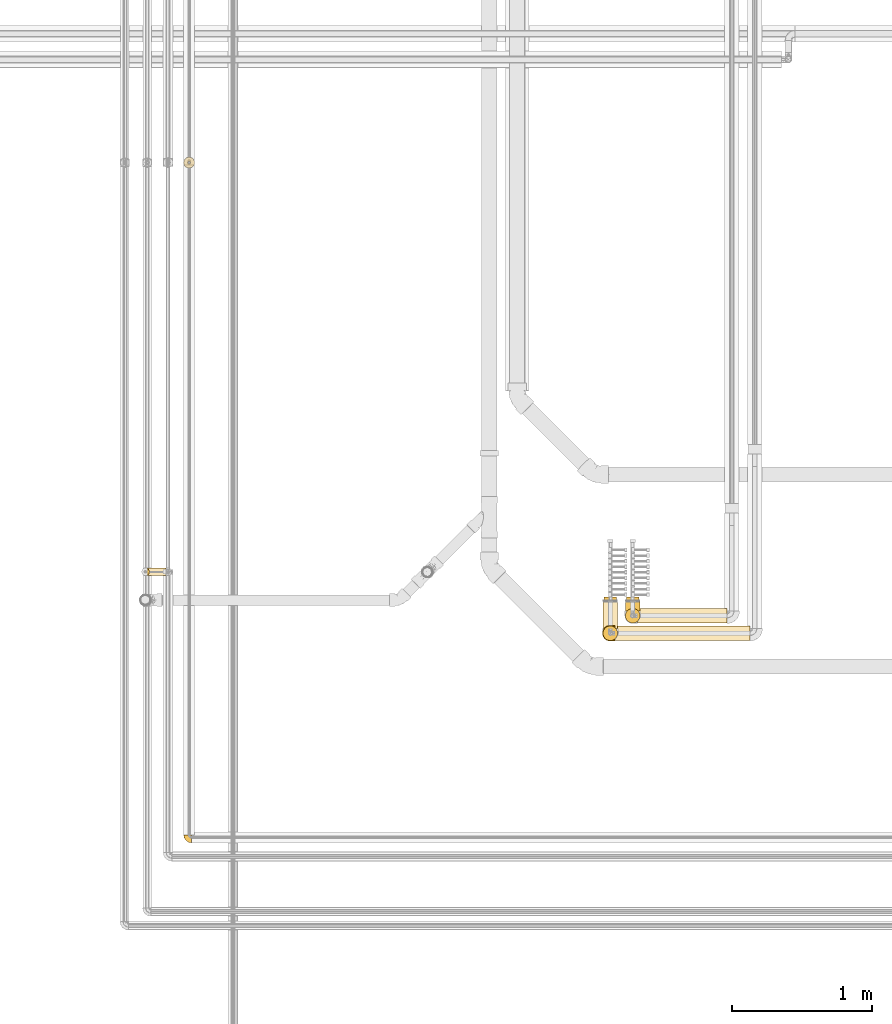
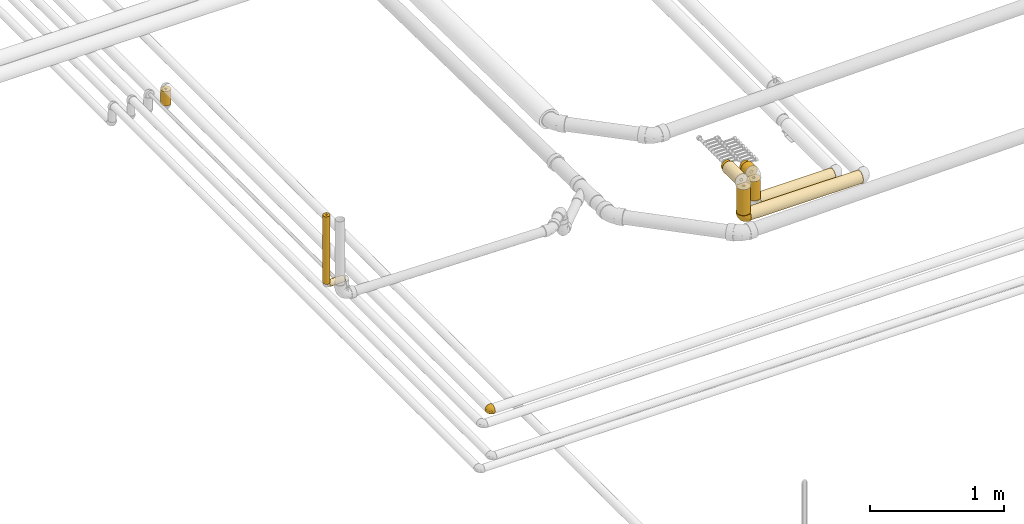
# One storey, part 2 of 83: 13 coverings.
"""IFC2X3 building model written with IfcOpenShell, lengths in millimetres."""

from ifc_helpers import new_model, entity, si_unit, converted_unit, derived_unit, direction, frame, origin_with_axes, origin_2d_with_axis, place, context, subcontext, project, spatial, hollow_circle, extrude, open_shell, surface_model, source, transform, mapped, element, save


model = new_model("IFC2X3")

# Units and contexts
model_context = context("Model", 3, precision=0.01, world=frame((0.0, 4.29681676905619e-09, 0.0)), true_north=direction((4.01073788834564e-13, 1.0)))
plan_context = context("Plan", 3, precision=0.01, world=frame((0.0, 4.29681676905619e-09, 0.0)), true_north=direction((4.01073788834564e-13, 1.0)))
body_context = subcontext(model_context, "Body", "Model", "MODEL_VIEW")
ifc_project = project(units=[converted_unit("PLANEANGLEUNIT", "DEGREE", entity("IfcPositiveLengthMeasure", 0.0174532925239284), si_unit("PLANEANGLEUNIT", "RADIAN"), dimensions=[0, 0, 0, 0, 0, 0, 0]), si_unit("AREAUNIT", "SQUARE_METRE"), si_unit("LENGTHUNIT", "METRE", prefix="MILLI"), si_unit("MASSUNIT", "GRAM", prefix="KILO"), si_unit("POWERUNIT", "WATT"), si_unit("PRESSUREUNIT", "PASCAL"), si_unit("FORCEUNIT", "NEWTON", prefix="KILO"), si_unit("ELECTRICVOLTAGEUNIT", "VOLT"), si_unit("ELECTRICCURRENTUNIT", "AMPERE"), si_unit("THERMODYNAMICTEMPERATUREUNIT", "DEGREE_CELSIUS"), si_unit("TIMEUNIT", "SECOND"), si_unit("VOLUMEUNIT", "CUBIC_METRE"), derived_unit("LINEARVELOCITYUNIT", [(si_unit("LENGTHUNIT", "METRE"), 1), (si_unit("TIMEUNIT", "SECOND"), -1)]), derived_unit("VOLUMETRICFLOWRATEUNIT", [(si_unit("VOLUMEUNIT", "CUBIC_METRE"), 1), (si_unit("TIMEUNIT", "SECOND"), -1)]), derived_unit("THERMALTRANSMITTANCEUNIT", [(si_unit("POWERUNIT", "WATT"), 1), (si_unit("THERMODYNAMICTEMPERATUREUNIT", "KELVIN"), -1), (si_unit("AREAUNIT", "SQUARE_METRE"), -1)]), derived_unit("SOUNDPRESSUREUNIT", [(si_unit("PRESSUREUNIT", "PASCAL"), 1)])], contexts=[model_context, plan_context])

# Site, building, storey
site_placement = place(None, frame((0.0, -4.29681676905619e-09, 0.0), z_axis=(0.0, 0.0, 1.0), x_axis=(1.0, 0.0, 0.0)))
site = spatial("IfcSite", under=ifc_project, at=site_placement, Name="ENGM", CompositionType="ELEMENT")
building_placement = place(site_placement, frame((0.0, 4.29681676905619e-09, 0.0), z_axis=(0.0, 0.0, 1.0), x_axis=(1.0, 0.0, 0.0)))
building = spatial("IfcBuilding", under=site, at=building_placement, Name="TI", CompositionType="ELEMENT")
storey_placement = place(building_placement, frame((0.0, 0.0, 204000.0), z_axis=(0.0, 0.0, 1.0), x_axis=(1.0, 0.0, 0.0)))
storey = spatial("IfcBuildingStorey", under=building, at=storey_placement, Name="Nivå D", CompositionType="ELEMENT", Elevation=204000.0)

# Coverings
shared_shape_1 = source(origin_with_axes(), body_context, "Body", "SweptSolid", [
    extrude(hollow_circle(Radius=52.5, WallThickness=40.0, at=origin_2d_with_axis()), frame((0.0, 0.0, 0.0), z_axis=(1.0, 0.0, 0.0), x_axis=(0.0, 1.0, 0.0)), (0.0, 0.0, 1.0), 642.7),
])
covering_1_placement = place(storey_placement, frame((603886.3909, 693361.26264, 6040.51019999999), z_axis=(-2.29999999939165e-05, 0.0, 0.9999999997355), x_axis=(-0.9999999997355, 0.0, -2.29999999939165e-05)))
element("IfcCovering", 1, at=covering_1_placement, inside=storey, Name="BI11T - Rørskål m/Al.folie - varme 60-25", PredefinedType="INSULATION", context=body_context, shape_type="MappedRepresentation", body=[
    mapped(shared_shape_1, transform((0.0, 0.0, 0.0), scale=1.0)),
])
shared_shape_2 = source(origin_with_axes(), body_context, "Body", "SweptSolid", [
    extrude(hollow_circle(Radius=52.5, WallThickness=40.0, at=origin_2d_with_axis()), frame((0.0, 0.0, 0.0), z_axis=(1.0, 0.0, 0.0), x_axis=(0.0, 1.0, 0.0)), (0.0, 0.0, 1.0), 966.4),
])
covering_2_placement = place(storey_placement, frame((603083.94337, 693235.60884, 6040.5), z_axis=(0.0, 0.0, 1.0), x_axis=(1.0, 0.0, 0.0)))
element("IfcCovering", 2, at=covering_2_placement, inside=storey, Name="BI11T - Rørskål m/Al.folie - varme 60-25", PredefinedType="INSULATION", context=body_context, shape_type="MappedRepresentation", body=[
    mapped(shared_shape_2, transform((0.0, 0.0, 0.0), scale=1.0)),
])
shared_shape_3 = source(origin_with_axes(), body_context, "Body", "SweptSolid", [
    extrude(hollow_circle(Radius=44.0, WallThickness=30.0, at=origin_2d_with_axis()), frame((0.0, 0.0, 0.0), z_axis=(1.0, 0.0, 0.0), x_axis=(0.0, 1.0, 0.0)), (0.0, 0.0, 1.0), 27.2),
])
for number, where, z_axis, x_axis in (
    (3, (603209.87398, 693494.44819, 6283.60000000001), (0.0, 0.0, 1.0), (1.9999999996e-05, -0.9999999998, 0.0)),
    (4, (603050.14337, 693494.44874, 6342.22842999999), (0.0, -0.00115100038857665, 0.999999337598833), (0.0, -0.999999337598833, -0.00115100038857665)),
):
    element("IfcCovering", number, at=place(storey_placement, frame(where, z_axis=z_axis, x_axis=x_axis)), inside=storey, Name="BI11T - Rørskål m/Al.folie - varme 60-25", PredefinedType="INSULATION", context=body_context, shape_type="MappedRepresentation", body=[
        mapped(shared_shape_3, transform((0.0, 0.0, 0.0), scale=1.0, scale2=1.0, scale3=1.0, uniform=False)),
    ])
shared_shape_4 = source(origin_with_axes(), body_context, "Body", "SweptSolid", [
    extrude(hollow_circle(Radius=52.5, WallThickness=40.0, at=origin_2d_with_axis()), frame((0.0, 0.0, 0.0), z_axis=(1.0, 0.0, 0.0), x_axis=(0.0, 1.0, 0.0)), (0.0, 0.0, 1.0), 175.5),
])
covering_3_placement = place(storey_placement, frame((603209.87398, 693361.26264, 6074.29783), z_axis=(0.0, -1.0, 0.0), x_axis=(0.0, 0.0, 1.0)))
element("IfcCovering", 5, at=covering_3_placement, inside=storey, Name="BI11T - Rørskål m/Al.folie - varme 60-25", PredefinedType="INSULATION", context=body_context, shape_type="MappedRepresentation", body=[
    mapped(shared_shape_4, transform((0.0, 0.0, 0.0), scale=1.0, scale2=1.0, scale3=1.0, uniform=False)),
])
shared_shape_5 = source(origin_with_axes(), body_context, "Body", "SweptSolid", [
    extrude(hollow_circle(Radius=52.5, WallThickness=40.0, at=origin_2d_with_axis()), frame((0.0, 0.0, 0.0), z_axis=(1.0, 0.0, 0.0), x_axis=(0.0, 1.0, 0.0)), (0.0, 0.0, 1.0), 66.4),
])
covering_4_placement = place(storey_placement, frame((603209.87398, 693395.06264, 6283.60000000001), z_axis=(0.0, 0.0, 1.0), x_axis=(0.0, 1.0, 0.0)))
element("IfcCovering", 6, at=covering_4_placement, inside=storey, Name="BI11T - Rørskål m/Al.folie - varme 60-25", PredefinedType="INSULATION", context=body_context, shape_type="MappedRepresentation", body=[
    mapped(shared_shape_5, transform((0.0, 0.0, 0.0), scale=1.0)),
])
shared_shape_6 = source(origin_with_axes(), body_context, "Body", "SweptSolid", [
    extrude(hollow_circle(Radius=52.5, WallThickness=40.0, at=origin_2d_with_axis()), frame((0.0, 0.0, 0.0), z_axis=(1.0, 0.0, 0.0), x_axis=(0.0, 1.0, 0.0)), (0.0, 0.0, 1.0), 234.1),
])
covering_5_placement = place(storey_placement, frame((603050.14337, 693235.60884, 6074.29999999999), z_axis=(0.0, -1.0, 0.0), x_axis=(0.0, 0.0, 1.0)))
element("IfcCovering", 7, at=covering_5_placement, inside=storey, Name="BI11T - Rørskål m/Al.folie - varme 60-25", PredefinedType="INSULATION", context=body_context, shape_type="MappedRepresentation", body=[
    mapped(shared_shape_6, transform((0.0, 0.0, 0.0), scale=1.0)),
])
shared_shape_7 = source(origin_with_axes(), body_context, "Body", "SurfaceModel", [
    surface_model("IfcShellBasedSurfaceModel", [(24.69442, 33.8, 51.26203), (35.48425, 33.8, 44.48008), (51.27108, 33.8, 24.67561), (-33.34059, 33.8, -46.10873), (44.4937, 33.8, 35.46718), (-11.775, 33.8, 55.6683), (0.0, 33.8, 56.9), (-33.34059, 33.8, 46.10873), (-23.05704, 33.8, 52.01906), (12.66523, 33.8, 55.47253), (55.47675, 33.8, 12.64674), (56.9, 33.8, 0.0), (55.47253, 33.8, -12.66523), (44.48008, 33.8, -35.48425), (51.26203, 33.8, -24.69442), (35.46718, 33.8, -44.4937), (-23.07704, 33.8, -52.01019), (-11.7964, 33.8, -55.66377), (24.67561, 33.8, -51.27108), (12.64674, 33.8, -55.47675), (0.0, 33.8, -56.9), (-33.8, 33.34059, 46.10873), (-33.8, 33.34059, -46.10873), (-33.8, 23.06476, -52.01564), (-33.8, 11.78813, -55.66552), (-33.8, 0.0, -56.9), (-33.8, 0.0, 56.9), (-33.8, 23.06476, 52.01564), (-33.8, 11.78813, 55.66552), (-33.8, -14.7268, 54.96118), (-33.8, -14.7268, -54.96118), (-33.8, -28.45, -49.27684), (-33.8, -40.23438, -40.23438), (-33.8, -49.27684, -28.45), (-33.8, -54.96118, -14.7268), (-33.8, -54.96118, 14.7268), (-33.8, -40.23438, 40.23438), (-33.8, -28.45, 49.27684), (-33.8, -49.27684, 28.45), (-33.8, -56.9, 0.0), (-33.47515, 33.47515, 46.10873), (-33.47515, 33.47515, -46.10873), (-32.08364, 25.44579, -50.9801), (-33.67665, 33.39168, -46.10873), (-30.83312, 26.67841, -50.56853), (-15.87334, 20.68765, -55.70718), (-10.71417, 10.71417, -56.9), (-22.5985, 20.69411, -54.43708), (-25.35, 2.26417, -56.9), (-28.51435, 18.40378, -54.135), (-23.15334, 12.21937, -56.06086), (-33.43341, 33.5759, -46.10873), (-33.39168, 33.67665, -46.10873), (-18.4122, 28.52188, -54.13163), (-25.86292, 27.59402, -51.71796), (-10.594, 29.15837, -55.99022), (-2.26417, 25.35, -56.9), (-33.5759, 33.43341, -46.10873), (-9.88716, 23.89498, -56.34654), (-4.52834, 16.9, -56.9), (-26.53944, 21.15799, -53.5551), (-29.02753, 27.72284, -50.57484), (-16.9, 4.52834, -56.9), (-1.89548, 26.72596, -56.9), (-21.08164, -9.83471, -55.69449), (-12.19459, -6.31894, -55.67005), (1.29929, -23.83547, -45.86), (-3.44185, -39.07106, -34.63852), (-16.08681, -32.30654, -45.14181), (-12.53249, -17.54431, -52.56875), (-24.14956, -20.93038, -52.56875), (19.51212, -39.57784, 0.0), (-5.77216, -52.46082, 0.0), (2.43768, -47.9375, -12.04628), (27.50756, -27.50756, -20.95211), (9.13936, -40.31341, -23.42618), (12.63976, -31.02468, -33.56907), (29.0814, 21.55934, -48.18545), (17.10597, 20.64085, -53.71172), (-15.67837, -54.0783, -10.47602), (-20.00402, -43.92696, -34.63852), (-11.38936, -49.61057, -21.77469), (25.8449, -21.54003, -31.23005), (42.40332, -10.087, -17.51383), (18.75415, -18.3345, -40.2421), (10.4419, -13.49624, -47.73768), (21.60417, -5.46943, -45.54281), (9.23089, 7.63542, -54.43656), (24.82732, 7.97866, -48.18545), (37.87075, 15.27302, -40.2421), (-0.20989, 3.79953, -55.7794), (50.92012, 11.89905, -18.79808), (30.72116, -7.8177, -37.28829), (41.22013, 0.75864, -30.27981), (46.66377, 18.13685, -30.27981), (18.39178, -38.38046, -13.50943), (32.12068, -27.27232, -9.7235), (52.46082, 5.77216, 0.0), (39.57784, -19.51212, 0.0), (-26.72596, 1.89548, -56.9), (1.285, -6.94906, -53.27967), (24.84384, 7.9713, 48.17409), (29.09917, 21.55599, 48.17409), (17.12404, 20.63566, 53.70514), (-16.07985, -54.20588, 10.23371), (-2.14575, -46.559, 21.77469), (1.72334, -48.57904, 10.55822), (14.17314, -39.78008, 17.81974), (-19.63149, -51.39867, 21.77469), (31.54782, -1.01192, 40.22682), (30.88333, -13.90178, 32.6927), (41.23057, 0.75415, 30.26172), (18.76512, -18.34538, 40.22666), (20.72445, -26.00089, 31.88611), (50.9267, 11.89822, 18.77928), (-16.6221, -7.67112, 55.80919), (-16.9, 4.52834, 56.9), (-25.35, 2.26417, 56.9), (-13.80199, -42.5668, 34.63852), (-21.83958, -33.58531, 45.14181), (-19.37969, -19.87123, 52.56875), (7.60894, -34.46398, 33.43332), (-7.48103, -29.3755, 45.14181), (26.00634, -33.17128, 10.14462), (27.51051, -27.51051, 20.94155), (-25.39793, -9.93514, 55.87819), (46.67489, 18.13455, 30.26172), (-1.12035, 1.70754, 55.61965), (-4.52834, 16.9, 56.9), (-10.71417, 10.71417, 56.9), (42.40865, -10.09182, 17.4921), (37.8857, 15.26915, 40.22666), (9.23512, 7.61904, 54.43287), (-1.89548, 26.72596, 56.9), (6.61304, -17.87206, 47.18516), (-9.78518, -15.45307, 52.88466), (14.61926, -5.8279, 49.09168), (-9.48758, -2.99227, 55.96008), (7.94789, -26.49594, 40.91874), (-1.31124, -9.39277, 53.17563), (-29.15757, 10.59376, 55.9903), (-23.89175, 9.87937, 56.34772), (-24.61782, 17.65103, 54.82579), (-29.75291, 25.81063, 51.18968), (-28.51435, 18.40378, 54.135), (-15.87334, 20.68765, 55.70718), (-25.86292, 27.59402, 51.71796), (-22.5985, 20.69411, 54.43708), (-26.85079, 30.69652, 50.51467), (-33.39168, 33.67665, 46.10873), (-33.43341, 33.5759, 46.10873), (-25.55723, 31.93363, 50.94173), (-18.39517, 28.5074, 54.13837), (-2.26417, 25.35, 56.9), (-33.67665, 33.39168, 46.10873), (-28.3466, 27.59544, 50.84629), (-33.5759, 33.43341, 46.10873)], [open_shell([[[0, 1, 2]], [[0, 2, 3]], [[2, 1, 4]], [[3, 5, 0]], [[6, 0, 5]], [[7, 8, 5]], [[5, 3, 7]], [[6, 9, 0]], [[3, 2, 10]], [[3, 11, 12]], [[3, 12, 13]], [[13, 12, 14]], [[3, 13, 15]], [[16, 3, 17]], [[18, 3, 15]], [[19, 3, 18]], [[20, 17, 3]], [[20, 3, 19]], [[11, 3, 10]], [[21, 22, 23]], [[24, 25, 23]], [[26, 23, 25]], [[27, 21, 28]], [[23, 28, 21]], [[23, 26, 28]], [[25, 29, 26]], [[25, 30, 29]], [[30, 31, 32]], [[32, 33, 34]], [[32, 34, 30]], [[30, 34, 35]], [[36, 37, 35]], [[36, 35, 38]], [[37, 30, 35]], [[34, 39, 35]], [[30, 37, 29]], [[22, 21, 40]], [[41, 22, 40]], [[7, 3, 40]], [[41, 40, 3]], [[42, 43, 44]], [[45, 46, 47]], [[48, 49, 50]], [[51, 52, 53]], [[49, 24, 42]], [[22, 43, 42]], [[24, 23, 42]], [[54, 41, 51]], [[17, 55, 16]], [[51, 53, 54]], [[45, 47, 54]], [[16, 52, 3]], [[55, 20, 56]], [[43, 57, 44]], [[45, 58, 59]], [[16, 53, 52]], [[58, 55, 56]], [[50, 49, 60]], [[59, 58, 56]], [[54, 47, 61]], [[53, 58, 45]], [[53, 45, 54]], [[46, 62, 47]], [[45, 59, 46]], [[22, 42, 23]], [[44, 60, 49]], [[60, 61, 47]], [[42, 44, 49]], [[41, 61, 57]], [[61, 44, 57]], [[50, 47, 62]], [[61, 60, 44]], [[54, 61, 41]], [[47, 50, 60]], [[48, 25, 24]], [[48, 24, 49]], [[50, 62, 48]], [[55, 58, 53]], [[16, 55, 53]], [[55, 17, 20]], [[63, 20, 19]], [[64, 62, 65]], [[66, 67, 68]], [[69, 70, 64]], [[71, 72, 73]], [[74, 75, 76]], [[77, 78, 18]], [[70, 31, 30]], [[34, 79, 39]], [[31, 68, 32]], [[80, 33, 32]], [[31, 70, 68]], [[73, 81, 75]], [[33, 80, 81]], [[74, 82, 83]], [[84, 85, 86]], [[87, 59, 78]], [[78, 88, 87]], [[89, 88, 77]], [[89, 15, 13]], [[78, 59, 63]], [[78, 19, 18]], [[46, 90, 65]], [[91, 14, 12]], [[92, 89, 93]], [[94, 89, 13]], [[83, 93, 91]], [[71, 95, 96]], [[92, 93, 82]], [[33, 81, 34]], [[13, 14, 94]], [[12, 97, 91]], [[12, 11, 97]], [[93, 94, 91]], [[74, 76, 82]], [[83, 97, 98]], [[75, 81, 67]], [[18, 15, 77]], [[79, 81, 73]], [[63, 19, 78]], [[66, 68, 69]], [[80, 68, 67]], [[30, 25, 99]], [[88, 92, 86]], [[87, 100, 90]], [[91, 94, 14]], [[89, 94, 93]], [[89, 77, 15]], [[78, 77, 88]], [[97, 83, 91]], [[96, 83, 98]], [[100, 66, 69]], [[66, 84, 76]], [[65, 69, 64]], [[87, 88, 86]], [[76, 75, 67]], [[75, 95, 73]], [[75, 74, 95]], [[79, 73, 72]], [[39, 79, 72]], [[34, 81, 79]], [[96, 95, 74]], [[71, 73, 95]], [[83, 96, 74]], [[71, 96, 98]], [[66, 76, 67]], [[87, 90, 59]], [[76, 84, 82]], [[92, 82, 84]], [[83, 82, 93]], [[86, 92, 84]], [[89, 92, 88]], [[85, 84, 66]], [[86, 85, 87]], [[66, 100, 85]], [[87, 85, 100]], [[68, 80, 32]], [[81, 80, 67]], [[64, 30, 99]], [[68, 70, 69]], [[30, 64, 70]], [[62, 64, 99]], [[46, 65, 62]], [[100, 69, 65]], [[65, 90, 100]], [[59, 90, 46]], [[101, 102, 103]], [[39, 72, 104]], [[105, 106, 107]], [[104, 105, 108]], [[109, 110, 111]], [[38, 35, 108]], [[112, 113, 110]], [[2, 114, 10]], [[115, 116, 117]], [[97, 10, 114]], [[108, 118, 38]], [[105, 104, 106]], [[36, 119, 37]], [[37, 119, 120]], [[0, 9, 103]], [[121, 122, 118]], [[123, 124, 107]], [[120, 115, 125]], [[2, 4, 126]], [[37, 120, 29]], [[127, 128, 129]], [[114, 2, 126]], [[11, 10, 97]], [[130, 114, 111]], [[110, 130, 111]], [[4, 1, 131]], [[132, 101, 103]], [[111, 126, 131]], [[1, 0, 102]], [[111, 131, 109]], [[103, 128, 132]], [[36, 38, 118]], [[121, 105, 107]], [[102, 131, 1]], [[109, 131, 101]], [[9, 6, 133]], [[128, 103, 133]], [[114, 130, 97]], [[122, 134, 135]], [[9, 133, 103]], [[112, 136, 134]], [[136, 101, 132]], [[121, 118, 105]], [[119, 118, 122]], [[129, 137, 127]], [[136, 112, 109]], [[115, 137, 116]], [[29, 125, 26]], [[138, 112, 134]], [[103, 102, 0]], [[131, 102, 101]], [[131, 126, 4]], [[114, 126, 111]], [[123, 130, 124]], [[97, 130, 98]], [[127, 136, 132]], [[137, 129, 116]], [[134, 136, 139]], [[125, 115, 117]], [[135, 115, 120]], [[26, 125, 117]], [[120, 125, 29]], [[136, 109, 101]], [[110, 109, 112]], [[112, 138, 113]], [[130, 110, 124]], [[107, 113, 121]], [[124, 110, 113]], [[135, 134, 139]], [[138, 122, 121]], [[118, 119, 36]], [[120, 119, 122]], [[122, 135, 120]], [[137, 135, 139]], [[135, 137, 115]], [[137, 139, 127]], [[136, 127, 139]], [[128, 127, 132]], [[104, 108, 35]], [[118, 108, 105]], [[39, 104, 35]], [[104, 72, 106]], [[72, 71, 106]], [[123, 107, 106]], [[123, 106, 71]], [[107, 124, 113]], [[71, 98, 123]], [[130, 123, 98]], [[122, 138, 134]], [[113, 138, 121]], [[117, 140, 26]], [[116, 141, 117]], [[142, 143, 144]], [[145, 146, 147]], [[148, 149, 150]], [[28, 140, 27]], [[5, 8, 151]], [[145, 152, 146]], [[152, 153, 5]], [[154, 21, 27]], [[153, 6, 5]], [[148, 151, 149]], [[40, 146, 150]], [[141, 140, 117]], [[141, 142, 144]], [[144, 154, 27]], [[143, 154, 144]], [[155, 156, 143]], [[147, 129, 145]], [[7, 149, 151]], [[148, 146, 152]], [[146, 148, 150]], [[152, 145, 128]], [[129, 147, 116]], [[129, 128, 145]], [[151, 148, 152]], [[5, 151, 152]], [[7, 151, 8]], [[152, 128, 153]], [[142, 116, 147]], [[140, 141, 144]], [[27, 140, 144]], [[140, 28, 26]], [[116, 142, 141]], [[155, 146, 40]], [[147, 146, 155]], [[147, 143, 142]], [[154, 143, 156]], [[156, 155, 40]], [[143, 147, 155]]])]),
])
covering_6_placement = place(storey_placement, frame((603050.14337, 693235.60884, 6040.5), z_axis=(0.0, 1.0, 0.0), x_axis=(-1.0, 0.0, 0.0)))
element("IfcCovering", 8, at=covering_6_placement, inside=storey, Name="BI11T - Rørskål m/Al.folie - varme 60-25", PredefinedType="INSULATION", context=body_context, shape_type="MappedRepresentation", body=[
    mapped(shared_shape_7, transform((0.0, 0.0, 0.0), scale=1.0)),
])
shared_shape_8 = source(origin_with_axes(), body_context, "Body", "SweptSolid", [
    extrude(hollow_circle(Radius=52.5, WallThickness=40.0, at=origin_2d_with_axis()), frame((0.0, 0.0, 0.0), z_axis=(1.0, 0.0, 0.0), x_axis=(0.0, 1.0, 0.0)), (0.0, 0.0, 1.0), 192.0),
])
covering_7_placement = place(storey_placement, frame((603050.14337, 693269.4091, 6342.19860999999), z_axis=(0.0, 0.0, 1.0), x_axis=(0.0, 1.0, 0.0)))
element("IfcCovering", 9, at=covering_7_placement, inside=storey, Name="BI11T - Rørskål m/Al.folie - varme 60-25", PredefinedType="INSULATION", context=body_context, shape_type="MappedRepresentation", body=[
    mapped(shared_shape_8, transform((0.0, 0.0, 0.0), scale=1.0)),
])
shared_shape_9 = source(origin_with_axes(), body_context, "Body", "SurfaceModel", [
    surface_model("IfcShellBasedSurfaceModel", [(16.92762, 18.0, 35.13482), (24.32205, 18.0, 30.48668), (30.49596, 18.0, 24.31042), (0.0, 18.0, 39.0), (8.68265, 18.0, 38.0212), (-17.65313, 18.0, 34.77595), (-9.0716, 18.0, 37.93028), (-17.65313, 18.0, -34.77595), (38.0212, 18.0, -8.68265), (30.48668, 18.0, -24.32205), (35.13482, 18.0, -16.92762), (16.91582, 18.0, -35.1405), (8.67336, 18.0, -38.02332), (0.0, 18.0, -39.0), (-9.07986, 18.0, -37.9283), (-18.0, 17.65313, 34.77595), (-18.0, 17.65313, -34.77595), (-18.0, 9.07573, -37.92929), (-18.0, 0.0, -39.0), (-18.0, -10.09394, -37.67111), (-18.0, 9.07573, 37.92929), (-18.0, 0.0, 39.0), (-18.0, -19.5, 33.77499), (-18.0, -10.09394, 37.67111), (-18.0, -27.57716, -27.57716), (-18.0, -33.77499, -19.5), (-18.0, -37.67111, -10.09394), (-18.0, -27.57716, 27.57716), (-18.0, -33.77499, 19.5), (-18.0, -37.67111, 10.09394), (-18.0, -39.0, 0.0), (-18.0, -19.5, -33.77499), (-17.75472, 17.75472, 34.77595), (-17.75472, 17.75472, -34.77595), (-10.69693, 8.27754, -38.56024), (-13.43887, 13.4378, -37.25083), (-18.0, 13.87948, -36.16327), (-3.99285, 18.0, -38.52872), (-5.27208, 5.27208, -39.0), (35.07581, 4.32339, -12.8862), (36.44486, 5.15443, 0.0), (-10.74635, -14.11569, -36.0313), (-7.14062, -22.30438, -30.94078), (0.91557, -27.13758, -23.74169), (-9.39098, -30.17764, -23.74169), (-10.11638, -6.44448, -38.23547), (5.42554, -30.40962, -15.51834), (8.91975, -31.09458, -8.81544), (-0.72215, -35.57291, -7.40704), (-3.9434, -34.17081, -14.92465), (11.89905, 10.29643, -36.81332), (18.35467, -18.16043, -20.33964), (22.18548, -9.5792, -24.00244), (26.02833, -11.12519, -17.62569), (-1.55235, 14.25229, -39.0), (28.56689, -12.27186, -10.56569), (-14.25229, 1.55235, -39.0), (24.29328, -1.63402, -26.48413), (28.731, -2.47172, -20.75536), (20.03747, 10.63714, -33.02584), (26.1306, 6.62949, -27.58242), (17.48771, 2.45383, -33.02584), (6.82515, 2.67281, -37.36453), (7.12721, -7.91709, -34.54648), (-0.73871, -3.03295, -37.89712), (24.31042, 18.0, -30.49596), (3.79072, -18.47926, -30.3503), (14.48749, -13.95874, -27.58242), (32.08869, 8.30463, -20.75536), (34.66113, -3.81296, 0.0), (21.99615, -19.90871, -12.00349), (-8.45406, 3.95406, -39.0), (-5.54567, -4.74018, -38.18583), (-11.63604, 2.63604, -39.0), (-3.10471, 10.50457, -39.0), (22.30509, -22.30509, 0.0), (28.48311, -13.05902, 0.0), (14.2339, -25.80417, -14.03794), (17.78336, -25.60215, -6.78283), (9.85809, -21.74688, -24.25823), (-5.15443, -36.44486, 0.0), (12.10287, -2.65598, -34.32848), (17.84887, -5.61422, -29.99364), (39.0, 18.0, 0.0), (-2.79709, -11.20452, -36.0313), (3.81296, -34.66113, 0.0), (13.05902, -28.48311, 0.0), (0.91273, -27.13877, 23.74169), (3.79294, -18.47705, 30.35091), (-7.14148, -22.30461, 30.94078), (-0.72215, -35.57289, 7.40714), (-9.39266, -30.17794, 23.74169), (-3.9445, -34.17111, 14.92465), (35.1405, 18.0, 16.91582), (35.07978, 4.32385, 12.87553), (38.02332, 18.0, 8.67336), (5.42857, -30.40429, 15.52635), (-10.74635, -14.11569, 36.0313), (28.57866, -12.25706, 10.55931), (28.73788, -2.47455, 20.74352), (6.82698, 2.66172, 37.36232), (11.90919, 10.29298, 36.80959), (-3.10471, 10.50457, 39.0), (14.24177, -25.79941, 14.03579), (17.7836, -25.60244, 6.78072), (22.00667, -19.90013, 11.99813), (17.84962, -5.62153, 29.98977), (12.12046, -2.65522, 34.32089), (7.13844, -7.89647, 34.55013), (-0.73859, -3.03309, 37.89708), (-6.03423, -3.68091, 38.40901), (-2.79709, -11.20452, 36.0313), (22.19226, -9.5759, 23.99767), (14.49499, -13.96612, 27.57191), (18.36673, -18.15599, 20.33077), (32.09595, 8.30299, 20.74352), (26.14079, 6.62687, 27.57191), (20.04912, 10.63506, 33.0184), (17.4985, 2.44897, 33.0184), (24.3075, -1.63294, 26.47068), (-10.11638, -6.44448, 38.23547), (-14.25229, 1.55235, 39.0), (9.86568, -21.75613, 24.2432), (-1.55235, 14.25229, 39.0), (8.92002, -31.09382, 8.81775), (-5.27208, 5.27208, 39.0), (-8.45406, 3.95406, 39.0), (-11.63604, 2.63604, 39.0), (25.45146, -12.02518, 17.57382), (-14.54446, 13.3997, 37.02735), (-9.91404, 9.91215, 38.44375), (-18.0, 3.99289, 38.52894), (-13.87942, 18.0, 36.16306)], [open_shell([[[0, 1, 2]], [[3, 4, 5]], [[3, 5, 6]], [[5, 4, 7]], [[7, 8, 9]], [[9, 8, 10]], [[7, 11, 12]], [[7, 13, 14]], [[13, 7, 12]], [[15, 16, 17]], [[18, 19, 17]], [[15, 17, 19]], [[15, 19, 20]], [[20, 19, 21]], [[21, 22, 23]], [[21, 19, 24]], [[24, 25, 21]], [[21, 25, 22]], [[22, 25, 26]], [[27, 22, 28]], [[22, 29, 28]], [[22, 26, 29]], [[26, 30, 29]], [[24, 19, 31]], [[16, 15, 32]], [[33, 16, 32]], [[5, 7, 32]], [[33, 32, 7]], [[34, 35, 14]], [[33, 35, 36]], [[18, 17, 34]], [[33, 7, 35]], [[7, 14, 35]], [[37, 34, 14]], [[17, 36, 35]], [[37, 38, 34]], [[35, 34, 17]], [[16, 33, 36]], [[18, 34, 38]], [[37, 13, 38]], [[39, 8, 40]], [[31, 19, 41]], [[39, 10, 8]], [[42, 43, 44]], [[19, 45, 41]], [[46, 47, 48]], [[48, 26, 49]], [[11, 50, 12]], [[44, 25, 24]], [[24, 31, 42]], [[51, 52, 53]], [[25, 44, 49]], [[12, 54, 13]], [[39, 55, 53]], [[19, 18, 56]], [[57, 58, 52]], [[59, 60, 61]], [[62, 63, 64]], [[11, 59, 50]], [[59, 11, 65]], [[66, 63, 67]], [[60, 65, 9]], [[68, 60, 9]], [[55, 39, 69]], [[57, 60, 58]], [[51, 53, 70]], [[9, 10, 68]], [[43, 42, 66]], [[69, 39, 40]], [[58, 68, 39]], [[25, 49, 26]], [[71, 72, 73]], [[62, 74, 50]], [[50, 54, 12]], [[75, 55, 76]], [[62, 50, 61]], [[77, 78, 47]], [[41, 42, 31]], [[66, 67, 79]], [[46, 77, 47]], [[26, 48, 80]], [[51, 79, 67]], [[73, 72, 45]], [[63, 81, 82]], [[38, 74, 62]], [[8, 83, 40]], [[39, 68, 10]], [[60, 68, 58]], [[60, 59, 65]], [[50, 59, 61]], [[56, 45, 19]], [[42, 41, 84]], [[42, 84, 66]], [[63, 66, 84]], [[84, 45, 72]], [[82, 81, 61]], [[56, 73, 45]], [[38, 64, 71]], [[84, 41, 45]], [[64, 84, 72]], [[62, 64, 38]], [[84, 64, 63]], [[80, 48, 85]], [[80, 30, 26]], [[78, 75, 86]], [[86, 85, 47]], [[48, 47, 85]], [[70, 78, 77]], [[86, 47, 78]], [[46, 48, 49]], [[49, 43, 46]], [[79, 46, 43]], [[51, 70, 77]], [[70, 55, 75]], [[77, 46, 79]], [[52, 51, 67]], [[77, 79, 51]], [[66, 79, 43]], [[82, 52, 67]], [[53, 52, 58]], [[63, 82, 67]], [[57, 61, 60]], [[63, 62, 81]], [[62, 61, 81]], [[39, 53, 58]], [[53, 55, 70]], [[52, 82, 57]], [[61, 57, 82]], [[42, 44, 24]], [[49, 44, 43]], [[50, 74, 54]], [[55, 69, 76]], [[75, 78, 70]], [[71, 64, 72]], [[87, 88, 89]], [[85, 90, 80]], [[91, 92, 87]], [[93, 94, 95]], [[28, 29, 92]], [[90, 96, 92]], [[23, 22, 97]], [[98, 94, 99]], [[100, 101, 102]], [[101, 0, 4]], [[103, 104, 105]], [[22, 27, 89]], [[106, 107, 108]], [[109, 110, 111]], [[27, 28, 91]], [[112, 113, 114]], [[99, 115, 116]], [[1, 116, 2]], [[27, 91, 89]], [[94, 93, 115]], [[94, 40, 95]], [[1, 0, 117]], [[118, 106, 119]], [[118, 101, 100]], [[101, 118, 117]], [[98, 69, 94]], [[106, 113, 112]], [[23, 120, 121]], [[114, 122, 103]], [[88, 108, 111]], [[23, 121, 21]], [[117, 116, 1]], [[75, 98, 105]], [[93, 2, 115]], [[4, 123, 101]], [[116, 115, 2]], [[98, 75, 76]], [[29, 80, 90]], [[90, 124, 96]], [[85, 86, 124]], [[103, 105, 114]], [[87, 122, 88]], [[97, 89, 111]], [[102, 125, 100]], [[109, 126, 110]], [[40, 94, 69]], [[40, 83, 95]], [[94, 115, 99]], [[101, 117, 0]], [[116, 117, 118]], [[89, 97, 22]], [[120, 23, 97]], [[108, 88, 113]], [[111, 89, 88]], [[108, 113, 106]], [[109, 100, 125]], [[121, 120, 127]], [[97, 111, 120]], [[109, 111, 108]], [[126, 109, 125]], [[120, 110, 127]], [[100, 109, 108]], [[29, 30, 80]], [[104, 124, 86]], [[29, 90, 92]], [[105, 104, 75]], [[75, 104, 86]], [[124, 104, 103]], [[124, 103, 96]], [[124, 90, 85]], [[122, 96, 103]], [[87, 92, 96]], [[127, 110, 126]], [[112, 128, 99]], [[105, 98, 128]], [[122, 114, 113]], [[128, 112, 114]], [[99, 116, 119]], [[119, 112, 99]], [[106, 118, 107]], [[118, 100, 107]], [[100, 108, 107]], [[88, 122, 113]], [[122, 87, 96]], [[105, 128, 114]], [[99, 128, 98]], [[118, 119, 116]], [[106, 112, 119]], [[92, 91, 28]], [[89, 91, 87]], [[123, 4, 3]], [[123, 102, 101]], [[76, 69, 98]], [[111, 110, 120]], [[129, 130, 6]], [[125, 130, 131]], [[15, 20, 129]], [[125, 3, 130]], [[3, 6, 130]], [[132, 129, 6]], [[20, 131, 130]], [[132, 32, 129]], [[130, 129, 20]], [[21, 125, 131]], [[15, 129, 32]], [[132, 5, 32]], [[11, 7, 65]], [[7, 9, 65]], [[8, 95, 83]], [[0, 2, 93]], [[93, 7, 4]], [[4, 0, 93]], [[93, 95, 7]], [[95, 8, 7]]])]),
])
covering_8_placement = place(storey_placement, frame((600031.9743, 691772.72914, 6220.0), z_axis=(0.0, 0.0, 1.0), x_axis=(0.0, -1.0, 0.0)))
element("IfcCovering", 10, at=covering_8_placement, inside=storey, Name="BI16T - Rørskål m/Al.folie - VV 40mm", PredefinedType="INSULATION", context=body_context, shape_type="MappedRepresentation", body=[
    mapped(shared_shape_9, transform((0.0, 0.0, 0.0), scale=1.0)),
])
shared_shape_10 = source(origin_with_axes(), body_context, "Body", "SweptSolid", [
    extrude(hollow_circle(Radius=39.0, WallThickness=30.0, at=origin_2d_with_axis()), frame((0.0, 0.0, 0.0), z_axis=(1.0, 0.0, 0.0), x_axis=(0.0, 1.0, 0.0)), (0.0, 0.0, 1.0), 131.8),
])
covering_9_placement = place(storey_placement, frame((600031.9743, 696607.72914, 6070.20000000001), z_axis=(-1.0, 0.0, 0.0), x_axis=(0.0, 0.0, 1.0)))
element("IfcCovering", 11, at=covering_9_placement, inside=storey, Name="BI16T - Rørskål m/Al.folie - VV 40mm", PredefinedType="INSULATION", context=body_context, shape_type="MappedRepresentation", body=[
    mapped(shared_shape_10, transform((0.0, 0.0, 0.0), scale=1.0)),
])
shared_shape_11 = source(origin_with_axes(), body_context, "Body", "SweptSolid", [
    extrude(hollow_circle(Radius=27.5, WallThickness=20.0, at=origin_2d_with_axis()), frame((0.0, 0.0, 0.0), z_axis=(1.0, 0.0, 0.0), x_axis=(0.0, 1.0, 0.0)), (0.0, 0.0, 1.0), 613.9),
])
covering_10_placement = place(storey_placement, frame((599719.29255, 693675.702, 6330.0), z_axis=(1.0, 0.0, 0.0), x_axis=(0.0, 0.0, 1.0)))
element("IfcCovering", 12, at=covering_10_placement, inside=storey, Name="BI15T - Cellegummi KV 15mm", PredefinedType="INSULATION", context=body_context, shape_type="MappedRepresentation", body=[
    mapped(shared_shape_11, transform((0.0, 0.0, 0.0), scale=1.0)),
])
shared_shape_12 = source(origin_with_axes(), body_context, "Body", "SweptSolid", [
    extrude(hollow_circle(Radius=27.5, WallThickness=20.0, at=origin_2d_with_axis()), frame((0.0, 0.0, 0.0), z_axis=(1.0, 0.0, 0.0), x_axis=(0.0, 1.0, 0.0)), (0.0, 0.0, 1.0), 132.2),
])
covering_11_placement = place(storey_placement, frame((599734.29255, 693675.702, 6315.0), z_axis=(0.0, 0.0, 1.0), x_axis=(1.0, 0.0, 0.0)))
element("IfcCovering", 13, at=covering_11_placement, inside=storey, Name="BI15T - Cellegummi KV 15mm", PredefinedType="INSULATION", context=body_context, shape_type="MappedRepresentation", body=[
    mapped(shared_shape_12, transform((0.0, 0.0, 0.0), scale=1.0)),
])

save(model, "model.ifc")
